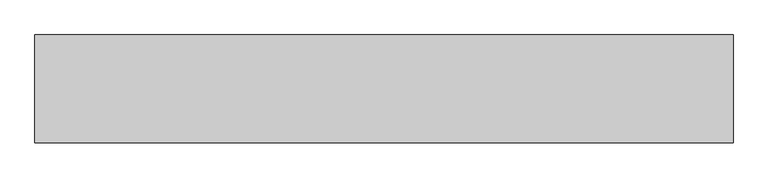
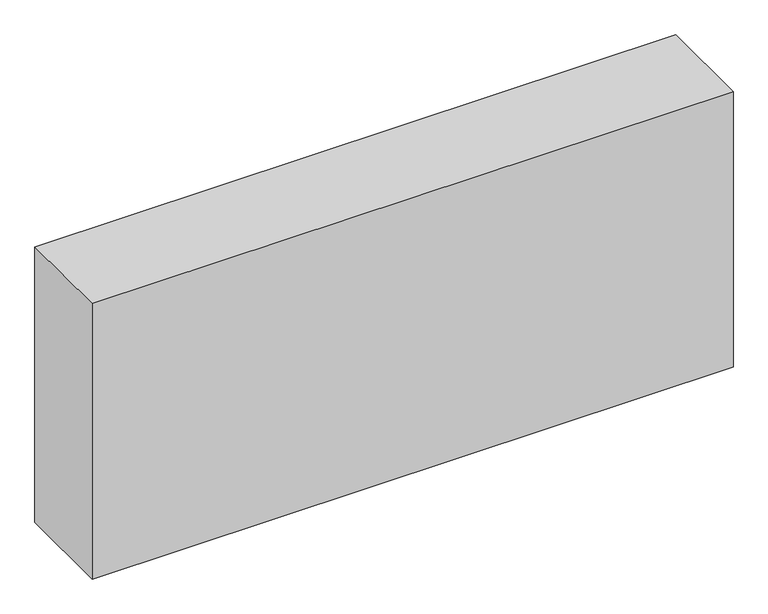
"""IFC4 building model written with IfcOpenShell, lengths in millimetres: unitary equipment geometry, nbl_Radiators : nbl_Radiators."""

from ifc_helpers import new_model, si_unit, point, frame, frame_2d, origin, origin_with_axes, place, context, project, spatial, polyline, circle_curve, trimmed, segment, composite_curve, outline, extrude, faceted_brep, source, transform, mapped, element, save


def unitary_equipment_ced749f4(model_context):
    return source(origin(), model_context, "Body", "SolidModel", [
        extrude(outline(polyline([(1071.8389423, -826.5161703), (1071.8389423, -1166.5161703), (-1128.1610577, -1166.5161703), (-1128.1610577, -826.5161703), (1071.8389423, -826.5161703)])), frame((0.0, 0.0, -200.0), z_axis=(0.0, 0.0, 1.0), x_axis=(1.0, 0.0, 0.0)), (0.0, 0.0, 1.0), 1000.0),
        extrude(outline(composite_curve([segment(trimmed(circle_curve(frame_2d((-916.5161703, 25.0)), 10.0), [point((-926.5161703, 25.0))], [point((-906.5161703, 25.0))], False, "CARTESIAN"), True, "CONTINUOUS"), segment(trimmed(circle_curve(frame_2d((-916.5161703, 25.0)), 10.0), [point((-906.5161703, 25.0))], [point((-926.5161703, 25.0))], False, "CARTESIAN"), True, "CONTINUOUS")], self_intersect=False)), frame((-930.1610577, 0.0, 0.0), z_axis=(1.0, 0.0, 0.0), x_axis=(0.0, 1.0, 0.0)), (0.0, 0.0, 1.0), 2.0),
        extrude(outline(composite_curve([segment(trimmed(circle_curve(frame_2d((-916.5161703, 570.0)), 10.0), [point((-926.5161703, 570.0))], [point((-906.5161703, 570.0))], False, "CARTESIAN"), True, "CONTINUOUS"), segment(trimmed(circle_curve(frame_2d((-916.5161703, 570.0)), 10.0), [point((-906.5161703, 570.0))], [point((-926.5161703, 570.0))], False, "CARTESIAN"), True, "CONTINUOUS")], self_intersect=False)), frame((-930.1610577, 0.0, 0.0), z_axis=(1.0, 0.0, 0.0), x_axis=(0.0, 1.0, 0.0)), (0.0, 0.0, 1.0), 2.0),
        extrude(outline(composite_curve([segment(trimmed(circle_curve(frame_2d((-916.5161703, 25.0)), 10.0), [point((-916.5161703, 35.0))], [point((-916.5161703, 15.0))], False, "CARTESIAN"), True, "CONTINUOUS"), segment(trimmed(circle_curve(frame_2d((-916.5161703, 25.0)), 10.0), [point((-916.5161703, 15.0))], [point((-916.5161703, 35.0))], False, "CARTESIAN"), True, "CONTINUOUS")], self_intersect=False)), frame((871.8389423, 0.0, 0.0), z_axis=(1.0, 0.0, 0.0), x_axis=(0.0, 1.0, 0.0)), (0.0, 0.0, 1.0), 2.0),
        extrude(outline(composite_curve([segment(trimmed(circle_curve(frame_2d((-916.5161703, 570.0)), 10.0), [point((-916.5161703, 580.0))], [point((-916.5161703, 560.0))], False, "CARTESIAN"), True, "CONTINUOUS"), segment(trimmed(circle_curve(frame_2d((-916.5161703, 570.0)), 10.0), [point((-916.5161703, 560.0))], [point((-916.5161703, 580.0))], False, "CARTESIAN"), True, "CONTINUOUS")], self_intersect=False)), frame((871.8389423, 0.0, 0.0), z_axis=(1.0, 0.0, 0.0), x_axis=(0.0, 1.0, 0.0)), (0.0, 0.0, 1.0), 2.0),
        faceted_brep([(851.8389423, -971.5161703, 580.0), (-908.1610577, -971.5161703, 580.0), (-908.1610577, -971.5161703, 10.0), (851.8389423, -971.5161703, 10.0), (859.8389423, -966.5161703, 588.0), (859.8389423, -966.5161703, 2.0), (-916.1610577, -966.5161703, 2.0), (-916.1610577, -966.5161703, 588.0)], [[[0, 1, 2, 3]], [[4, 5, 6, 7]], [[5, 4, 0, 3]], [[6, 5, 3, 2]], [[7, 6, 2, 1]], [[4, 7, 1, 0]]]),
        faceted_brep([(-918.1610577, -864.5161703, 0.0), (-918.1610577, -866.5161703, 0.0), (-928.1610577, -866.5161703, 0.0), (-928.1610577, -966.5161703, 0.0), (-918.1610577, -966.5161703, 0.0), (-918.1610577, -968.5161703, 0.0), (-930.1610577, -968.5161703, 0.0), (-930.1610577, -864.5161703, 0.0), (-930.1610577, -864.5161703, 602.0), (-918.1610577, -864.5161703, 602.0), (-930.1610577, -968.5161703, 602.0), (-918.1610577, -968.5161703, 602.0), (-918.1610577, -966.5161703, 600.0), (-918.1610577, -866.5161703, 600.0), (-928.1610577, -966.5161703, 600.0), (-928.1610577, -866.5161703, 600.0)], [[[0, 1, 2, 3, 4, 5, 6, 7]], [[0, 7, 8, 9]], [[8, 7, 6, 10]], [[10, 6, 5, 11]], [[11, 5, 4, 12, 13, 1, 0, 9]], [[4, 3, 14, 12]], [[3, 2, 15, 14]], [[2, 1, 13, 15]], [[13, 12, 14, 15]], [[9, 8, 10, 11]]]),
        faceted_brep([(873.8389423, -864.5161703, 0.0), (861.8389423, -864.5161703, 0.0), (861.8389423, -864.5161703, 602.0), (873.8389423, -864.5161703, 602.0), (873.8389423, -968.5161703, 602.0), (861.8389423, -968.5161703, 602.0), (861.8389423, -968.5161703, 0.0), (873.8389423, -968.5161703, 0.0), (861.8389423, -966.5161703, 600.0), (861.8389423, -866.5161703, 600.0), (871.8389423, -866.5161703, 600.0), (871.8389423, -966.5161703, 600.0), (861.8389423, -866.5161703, 0.0), (861.8389423, -966.5161703, 0.0), (871.8389423, -966.5161703, 0.0), (871.8389423, -866.5161703, 0.0)], [[[0, 1, 2, 3]], [[4, 5, 6, 7]], [[0, 3, 4, 7]], [[8, 9, 10, 11]], [[2, 1, 12, 9, 8, 13, 6, 5]], [[3, 2, 5, 4]], [[6, 13, 14, 15, 12, 1, 0, 7]], [[12, 15, 10, 9]], [[15, 14, 11, 10]], [[14, 13, 8, 11]]]),
        faceted_brep([(-918.1610577, -968.5161703, 602.0), (-918.1610577, -864.5161703, 602.0), (-918.1610577, -864.5161703, 590.0), (-918.1610577, -866.5161703, 590.0), (-918.1610577, -866.5161703, 600.0), (-918.1610577, -966.5161703, 600.0), (-918.1610577, -966.5161703, 590.0), (-918.1610577, -968.5161703, 590.0), (861.8389423, -968.5161703, 602.0), (861.8389423, -968.5161703, 590.0), (861.8389423, -966.5161703, 590.0), (861.8389423, -966.5161703, 600.0), (861.8389423, -866.5161703, 600.0), (861.8389423, -866.5161703, 590.0), (861.8389423, -864.5161703, 590.0), (861.8389423, -864.5161703, 602.0), (-908.1610577, -876.5161703, 602.0), (851.8389423, -876.5161703, 602.0), (851.8389423, -956.5161703, 602.0), (-908.1610577, -956.5161703, 602.0), (851.8389423, -876.5161703, 600.0), (-908.1610577, -876.5161703, 600.0), (-908.1610577, -956.5161703, 600.0), (851.8389423, -956.5161703, 600.0)], [[[0, 1, 2, 3, 4, 5, 6, 7]], [[8, 9, 10, 11, 12, 13, 14, 15]], [[1, 0, 8, 15], [16, 17, 18, 19]], [[2, 1, 15, 14]], [[3, 2, 14, 13]], [[4, 3, 13, 12]], [[5, 4, 12, 11], [20, 21, 22, 23]], [[6, 5, 11, 10]], [[7, 6, 10, 9]], [[0, 7, 9, 8]], [[16, 21, 20, 17]], [[18, 23, 22, 19]], [[17, 20, 23, 18]], [[21, 16, 19, 22]]]),
        extrude(outline(polyline([(-928.1610577, -866.5161703), (871.8389423, -866.5161703), (871.8389423, -876.5161703), (-928.1610577, -876.5161703), (-928.1610577, -866.5161703)])), origin_with_axes(), (0.0, 0.0, 1.0), 600.0),
        extrude(outline(polyline([(-928.1610577, -956.5161703), (871.8389423, -956.5161703), (871.8389423, -966.5161703), (-928.1610577, -966.5161703), (-928.1610577, -956.5161703)])), origin_with_axes(), (0.0, 0.0, 1.0), 600.0),
    ])


if __name__ == "__main__":
    model = new_model("IFC4")
    model_context = context("Model", 3, world=origin())
    ifc_project = project(units=[si_unit("LENGTHUNIT", "METRE", prefix="MILLI")], contexts=[model_context])
    site = spatial("IfcSite", under=ifc_project)
    building = spatial("IfcBuilding", under=site)
    placement = place(None, origin())
    unitary_equipment_shape = unitary_equipment_ced749f4(model_context)
    element("IfcUnitaryEquipment", 1, ObjectType="nbl_Radiators : nbl_Radiators", at=placement, inside=building, context=model_context, shape_type="MappedRepresentation", body=[
        mapped(unitary_equipment_shape, transform((0.0, 0.0, 0.0), x_axis=(1.0, 0.0, 0.0), y_axis=(0.0, 1.0, 0.0), z_axis=(0.0, 0.0, 1.0))),
    ])
    save(model, "model.ifc")
